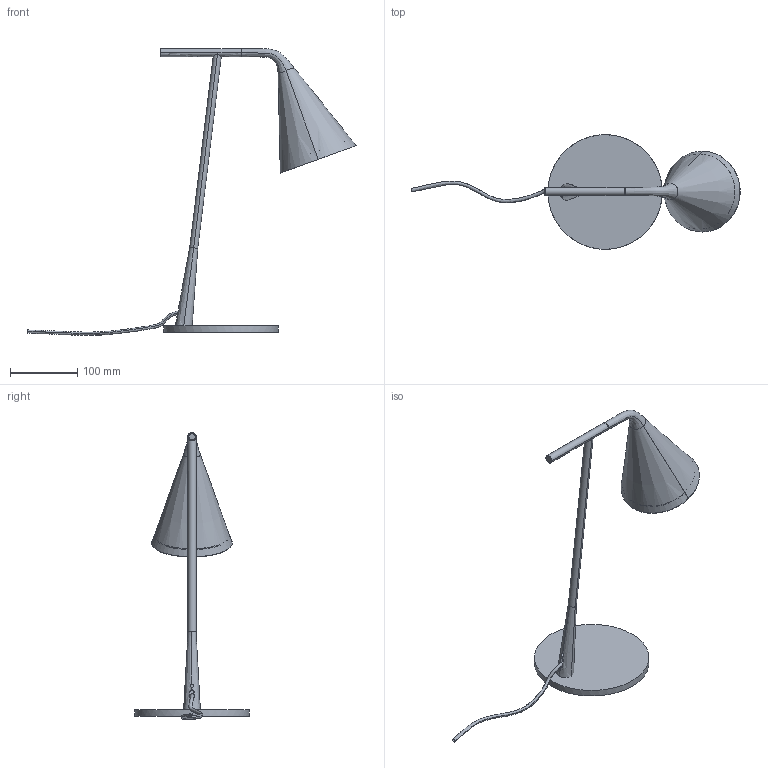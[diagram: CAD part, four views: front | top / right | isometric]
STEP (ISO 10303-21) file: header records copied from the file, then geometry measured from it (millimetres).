
FILE_DESCRIPTION(/* description */ (''),/* implementation_level */ '2;1');
FILE_NAME(/* name */ '5J0UZ8~L',/* time_stamp */ '2022-01-11T09:07:36+01:00',/* author */ (''),/* organization */ (''),/* preprocessor_version */ 'ST-DEVELOPER v15',/* originating_system */ '',/* authorisation */ '');
FILE_SCHEMA (('AUTOMOTIVE_DESIGN'));
Length unit declared in the file: millimetre
Products named in the file (1): Document
Bounding box: 487.28 x 169.83 x 425.7 mm (x, y, z)
Volume: 298647.5 mm3; surface area: 192743.3 mm2
Topology: 8 solids, 10 shells, 119 faces, 282 edges, 181 vertices
Faces by surface type: bspline 119
Entity records: 10630 total; most frequent: CARTESIAN_POINT 7190, B_SPLINE_CURVE_WITH_KNOTS 554, ORIENTED_EDGE 549, PCURVE 549, DEFINITIONAL_REPRESENTATION 549, SURFACE_CURVE 281, EDGE_CURVE 281, VERTEX_POINT 181
